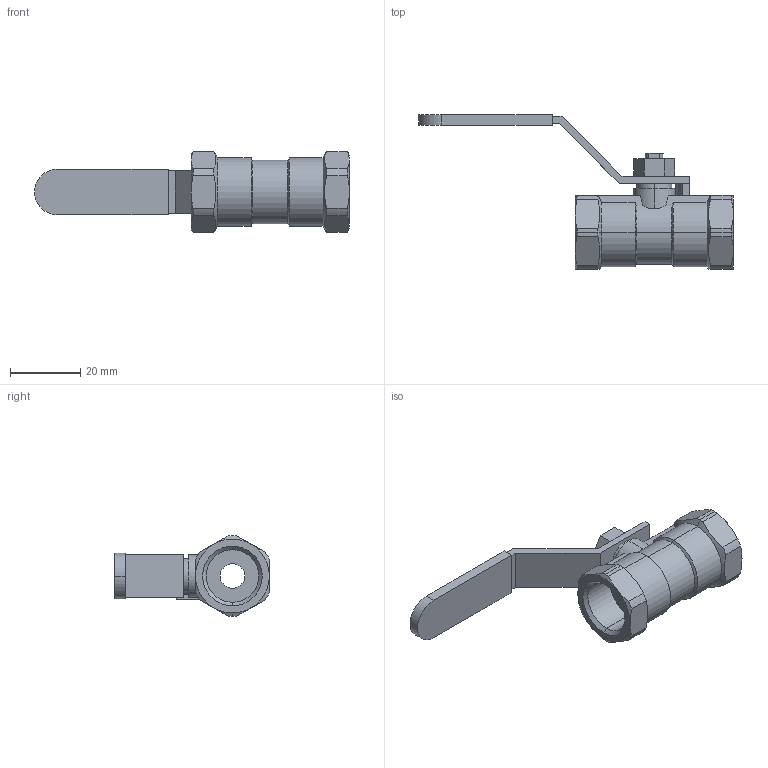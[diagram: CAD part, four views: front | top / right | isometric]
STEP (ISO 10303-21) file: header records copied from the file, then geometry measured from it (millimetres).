
FILE_DESCRIPTION (( 'STEP AP203' ), '1' );
FILE_NAME ('A3.622I010XFVPB0.STEP', '2018-11-06T07:55:44', ( '' ), ( '' ), 'SwSTEP 2.0', 'SolidWorks 2014', '' );
FILE_SCHEMA (( 'CONFIG_CONTROL_DESIGN' ));
Length unit declared in the file: millimetre
Products named in the file (1): A3.622I010XFVPB0
Bounding box: 89.5 x 44 x 23 mm (x, y, z)
Volume: 13370.6 mm3; surface area: 7901.2 mm2
Topology: 1 solids, 1 shells, 123 faces, 311 edges, 197 vertices
Faces by surface type: plane 53, cylinder 40, cone 30
Entity records: 3944 total; most frequent: CARTESIAN_POINT 934, ORIENTED_EDGE 622, DIRECTION 607, EDGE_CURVE 311, AXIS2_PLACEMENT_3D 230, VERTEX_POINT 197, VECTOR 147, LINE 147
